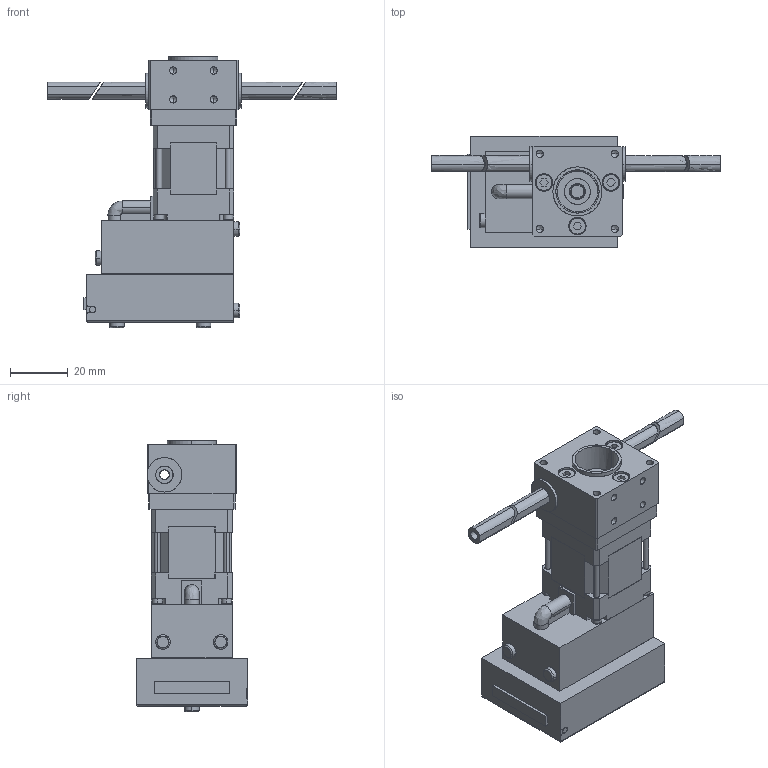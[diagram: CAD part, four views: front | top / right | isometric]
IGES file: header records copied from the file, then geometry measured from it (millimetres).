
Start section: SolidWorks IGES file using analytic representation for surfaces
Global section: file name: C:\Users\render\Documents\CAD Files\Integrated-Actuators\RRA-Series\RRA-11\RRA-11.IGS; native system: SolidWorks 2009; preprocessor: SolidWorks 2009; author: render; date: 100528.131139; units: millimetre
Bounding box: 100 x 38.7 x 94.15 mm (x, y, z)
Surface area: 30805.4 mm2 (no closed solid volume)
Topology: 0 solids, 0 shells, 538 faces, 8300 edges, 8284 vertices
Faces by surface type: revolution 274, bspline 264
